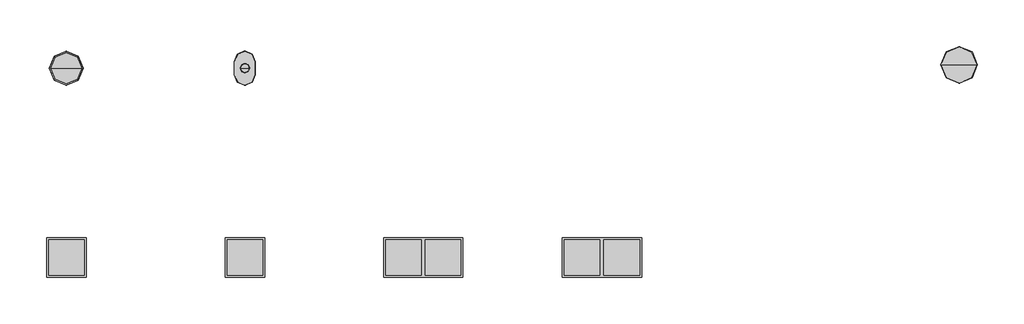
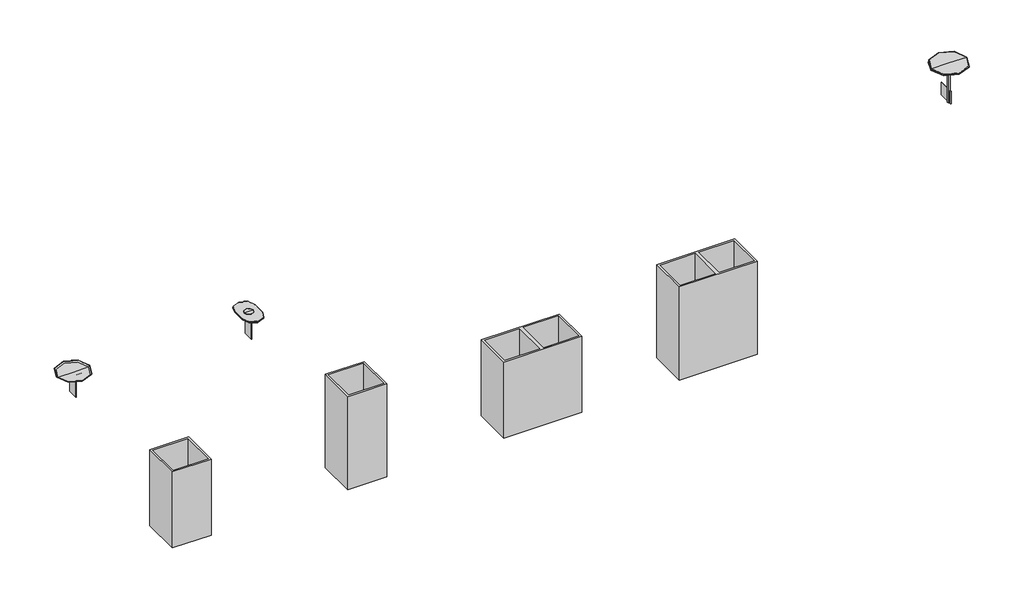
# One storey, incomplete: 7 furniture elements.
"""IFC4 building model written with IfcOpenShell, lengths in millimetres."""

from ifc_helpers import new_model, si_unit, origin, place, context, project, spatial, transform, mapped, element, save
from components import furniture_34c9f7b2, furniture_76cfae69, furniture_5ed0384f, furniture_2cc27aed, furniture_2011433c, round_tray_table_989d8179, tablet_arm_seat_single_76a2b899

model = new_model("IFC4")

# Units and contexts
model_context = context("Model", 3, world=origin())
ifc_project = project(units=[si_unit("LENGTHUNIT", "METRE", prefix="MILLI")], contexts=[model_context])

# Site, building, storey
site = spatial("IfcSite", under=ifc_project)
building = spatial("IfcBuilding", under=site)
storey = spatial("IfcBuildingStorey", under=building, Name="Luna", Elevation=0.0)

# Furniture
placement = place(None, origin())
furniture_shape = furniture_34c9f7b2(model_context)
element("IfcFurniture", 1, ObjectType="Stylex - Luna - Planter : Single Lowback", at=placement, inside=storey, context=model_context, shape_type="MappedRepresentation", body=[
    mapped(furniture_shape, transform((2256.3009414, -13054.302206, 0.0), x_axis=(1.0, 0.0, 0.0), y_axis=(0.0, 1.0, 0.0), z_axis=(0.0, 0.0, 1.0))),
])
furniture_2_shape = furniture_76cfae69(model_context)
element("IfcFurniture", 2, ObjectType="Stylex - Luna - Planter : Single Highback", at=placement, inside=storey, context=model_context, shape_type="MappedRepresentation", body=[
    mapped(furniture_2_shape, transform((3976.2437985, -13054.302206, 0.0), x_axis=(1.0, 0.0, 0.0), y_axis=(0.0, 1.0, 0.0), z_axis=(0.0, 0.0, 1.0))),
])
furniture_3_shape = furniture_5ed0384f(model_context)
element("IfcFurniture", 3, ObjectType="Stylex - Luna - Planter : Double Lowback", at=placement, inside=storey, context=model_context, shape_type="MappedRepresentation", body=[
    mapped(furniture_3_shape, transform((5696.1866557, -13054.302206, 0.0), x_axis=(1.0, 0.0, 0.0), y_axis=(0.0, 1.0, 0.0), z_axis=(0.0, 0.0, 1.0))),
])
furniture_4_shape = furniture_2cc27aed(model_context)
element("IfcFurniture", 4, ObjectType="Stylex - Luna - Planter : Double Highback", at=placement, inside=storey, context=model_context, shape_type="MappedRepresentation", body=[
    mapped(furniture_4_shape, transform((7416.1295128, -13054.302206, 0.0), x_axis=(1.0, 0.0, 0.0), y_axis=(0.0, 1.0, 0.0), z_axis=(0.0, 0.0, 1.0))),
])
furniture_5_shape = furniture_2011433c(model_context)
element("IfcFurniture", 5, ObjectType="Stylex - Luna - Tray Table : Wireless Charging Tray", at=placement, inside=storey, context=model_context, shape_type="MappedRepresentation", body=[
    mapped(furniture_5_shape, transform((3976.2437985, -11231.852206, 0.0), x_axis=(1.0, 0.0, 0.0), y_axis=(0.0, 1.0, 0.0), z_axis=(0.0, 0.0, 1.0))),
])
round_tray_table_shape = round_tray_table_989d8179(model_context)
element("IfcFurniture", 6, ObjectType="Stylex - Luna - Tray Table : Round Tray Table", at=placement, inside=storey, context=model_context, shape_type="MappedRepresentation", body=[
    mapped(round_tray_table_shape, transform((2256.3009414, -11231.852206, 0.0), x_axis=(1.0, 0.0, 0.0), y_axis=(0.0, 1.0, 0.0), z_axis=(0.0, 0.0, 1.0))),
])
tablet_arm_seat_single_shape = tablet_arm_seat_single_76a2b899(model_context)
element("IfcFurniture", 7, ObjectType="Stylex - Luna - Tray Table : Tablet Arm Seat Single", at=placement, inside=storey, context=model_context, shape_type="MappedRepresentation", body=[
    mapped(tablet_arm_seat_single_shape, transform((10856.0152271, -11231.852206, 0.0), x_axis=(1.0, 0.0, 0.0), y_axis=(0.0, 1.0, 0.0), z_axis=(0.0, 0.0, 1.0))),
])

save(model, "model.ifc")
